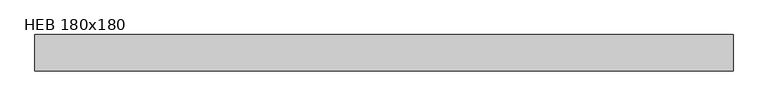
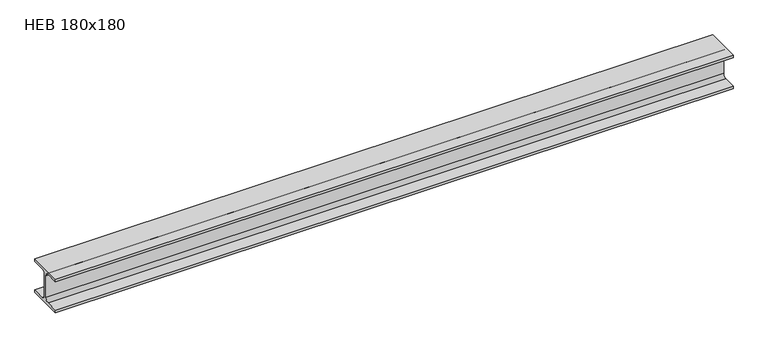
"""IFC4 building model written with IfcOpenShell, lengths in millimetres: beam geometry, M_HP-Bearing Pile : HEB 180x180."""

from ifc_helpers import new_model, si_unit, point, frame, frame_2d, origin, place, context, project, spatial, polyline, circle_curve, trimmed, segment, composite_curve, outline, extrude, source, transform, mapped, element, save


def heb_180x180_772428e8(model_context):
    return source(origin(), model_context, "Body", "SweptSolid", [
        extrude(outline(composite_curve([segment(polyline([(90.0, -76.9), (90.0, -90.0), (-90.0, -90.0), (-90.0, -76.9), (-25.45, -76.9)]), True, "CONTINUOUS"), segment(trimmed(circle_curve(frame_2d((-25.45, -58.0)), 18.9), [point((-25.45, -76.9))], [point((-6.55, -58.0))], True, "CARTESIAN"), True, "CONTINUOUS"), segment(polyline([(-6.55, -58.0), (-6.55, 58.0)]), True, "CONTINUOUS"), segment(trimmed(circle_curve(frame_2d((-25.45, 58.0)), 18.9), [point((-6.55, 58.0))], [point((-25.45, 76.9))], True, "CARTESIAN"), True, "CONTINUOUS"), segment(polyline([(-25.45, 76.9), (-90.0, 76.9), (-90.0, 90.0), (90.0, 90.0), (90.0, 76.9), (25.45, 76.9)]), True, "CONTINUOUS"), segment(trimmed(circle_curve(frame_2d((25.45, 58.0)), 18.9), [point((25.45, 76.9))], [point((6.55, 58.0))], True, "CARTESIAN"), True, "CONTINUOUS"), segment(polyline([(6.55, 58.0), (6.55, -58.0)]), True, "CONTINUOUS"), segment(trimmed(circle_curve(frame_2d((25.45, -58.0)), 18.9), [point((6.55, -58.0))], [point((25.45, -76.9))], True, "CARTESIAN"), True, "CONTINUOUS"), segment(polyline([(25.45, -76.9), (90.0, -76.9)]), True, "CONTINUOUS")], self_intersect=False)), frame((-2076.4994961, 0.0, 0.0), z_axis=(1.0, 0.0, 0.0), x_axis=(0.0, 1.0, 0.0)), (0.0, 0.0, 1.0), 3447.2989985),
    ])


if __name__ == "__main__":
    model = new_model("IFC4")
    model_context = context("Model", 3, world=origin())
    ifc_project = project(units=[si_unit("LENGTHUNIT", "METRE", prefix="MILLI")], contexts=[model_context])
    site = spatial("IfcSite", under=ifc_project)
    building = spatial("IfcBuilding", under=site)
    placement = place(None, origin())
    heb_180x180_shape = heb_180x180_772428e8(model_context)
    element("IfcBeam", 1, ObjectType="M_HP-Bearing Pile : HEB 180x180", at=placement, inside=building, context=model_context, shape_type="MappedRepresentation", body=[
        mapped(heb_180x180_shape, transform((0.0, 0.0, 0.0), x_axis=(1.0, 0.0, 0.0), y_axis=(0.0, 1.0, 0.0), z_axis=(0.0, 0.0, 1.0))),
    ])
    save(model, "model.ifc")
